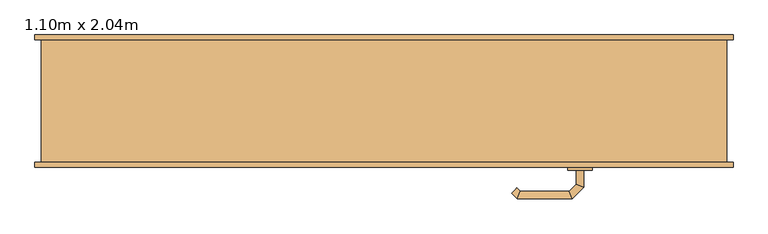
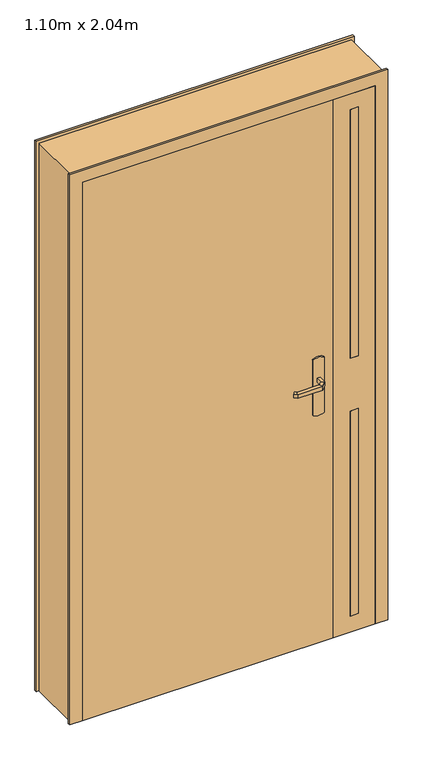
"""IFC4 building model written with IfcOpenShell, lengths in millimetres: door geometry, Tierce  160 : 1.10m x 2.04m."""

from ifc_helpers import new_model, si_unit, point, frame, frame_2d, origin, origin_with_axes, place, context, project, spatial, polyline, circle_curve, ellipse_curve, trimmed, segment, composite_curve, outline, extrude, faceted_brep, source, transform, mapped, element, save
from ifc_brep_helpers import plane_surface, cylinder_surface, advanced_brep


def door_1_10m_x_2_04m_af61bfde(model_context):
    return source(origin(), model_context, "Body", "SolidModel", [
        advanced_brep(
        [(314.0, -63.0, 993.0), (326.0, -63.0, 993.0), (326.0, -63.0, 1007.0), (314.0, -63.0, 1007.0), (314.0, -40.5147955, 1007.0), (314.0, -40.5147955, 993.0), (326.0, -35.5442327, 1007.0), (326.0, -35.5442327, 993.0), (302.5147186, -29.0295141, 1007.0), (302.5147186, -29.0295141, 993.0), (307.4852814, -17.0295141, 1007.0), (307.4852814, -17.0295141, 993.0), (222.4394977, -29.0295141, 1007.0), (222.4394977, -29.0295141, 993.0), (217.468935, -17.0295141, 1007.0), (217.468935, -17.0295141, 993.0), (217.1257892, -34.3432226, 993.0), (217.1257892, -34.3432226, 1007.0), (208.6405078, -25.8579412, 1007.0), (208.6405078, -25.8579412, 993.0)],
        [
            (0, 1, circle_curve(frame((320.0, -63.0, 1013.0457722), z_axis=(0.0, -1.0, 0.0), x_axis=(1.0, 0.0, 0.0)), 20.9244589)),
            (1, 2),
            (2, 3, circle_curve(frame((320.0, -63.0, 986.9542278), z_axis=(0.0, -1.0, 0.0), x_axis=(1.0, 0.0, 0.0)), 20.9244589)),
            (3, 0),
            (3, 4),
            (4, 5),
            (5, 0),
            (2, 6),
            (6, 4, ellipse_curve(frame((320.0, -38.0295141, 986.9542278), z_axis=(0.38268343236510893, -0.9238795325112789, 0.0), x_axis=(-0.9238795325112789, -0.3826834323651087, 0.0)), 22.6484711, 20.9244589)),
            (1, 7),
            (7, 6),
            (5, 7, ellipse_curve(frame((320.0, -38.0295141, 1013.0457722), z_axis=(0.38268343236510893, -0.9238795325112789, 0.0), x_axis=(-0.9238795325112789, -0.3826834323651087, 0.0)), 22.6484711, 20.9244589)),
            (4, 8),
            (8, 9),
            (9, 5),
            (6, 10),
            (10, 8, ellipse_curve(frame((305.0, -23.0295141, 986.9542278), z_axis=(0.9238795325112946, -0.38268343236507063, 0.0), x_axis=(-0.3826834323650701, -0.9238795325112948, 0.0)), 22.6484711, 20.9244589)),
            (7, 11),
            (11, 10),
            (9, 11, ellipse_curve(frame((305.0, -23.0295141, 1013.0457722), z_axis=(0.9238795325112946, -0.38268343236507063, 0.0), x_axis=(-0.3826834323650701, -0.9238795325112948, 0.0)), 22.6484711, 20.9244589)),
            (8, 12),
            (12, 13),
            (13, 9),
            (10, 14),
            (14, 12, ellipse_curve(frame((219.9542163, -23.0295141, 986.9542278), z_axis=(0.9238795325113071, 0.38268343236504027, 0.0), x_axis=(0.38268343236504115, -0.9238795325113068, 0.0)), 22.6484711, 20.9244589)),
            (11, 15),
            (15, 14),
            (13, 15, ellipse_curve(frame((219.9542163, -23.0295141, 1013.0457722), z_axis=(0.9238795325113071, 0.38268343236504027, 0.0), x_axis=(0.38268343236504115, -0.9238795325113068, 0.0)), 22.6484711, 20.9244589)),
            (16, 17),
            (17, 18, circle_curve(frame((212.8831485, -30.1005819, 986.9542278), z_axis=(-0.7071067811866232, -0.7071067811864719, 0.0), x_axis=(-0.7071067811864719, 0.7071067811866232, 0.0)), 20.9244589)),
            (18, 19),
            (19, 16, circle_curve(frame((212.8831485, -30.1005819, 1013.0457722), z_axis=(-0.7071067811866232, -0.7071067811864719, 0.0), x_axis=(-0.7071067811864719, 0.7071067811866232, 0.0)), 20.9244589)),
            (12, 17),
            (16, 13),
            (14, 18),
            (15, 19),
        ],
        [
            plane_surface(frame((329.2195445, -63.0, 1000.0), z_axis=(0.0, -1.0, 0.0), x_axis=(0.0, 0.0, 1.0))),
            plane_surface(frame((314.0, -63.0, 993.0), z_axis=(-1.0, 0.0, 0.0), x_axis=(0.0, 1.0, 0.0))),
            cylinder_surface(frame((320.0, -63.0, 986.9542278), z_axis=(0.0, -1.0, 0.0), x_axis=(1.0, 0.0, 0.0)), 20.9244589),
            plane_surface(frame((326.0, -63.0, 1007.0), z_axis=(1.0, 0.0, 0.0), x_axis=(0.0, 1.0, 0.0))),
            cylinder_surface(frame((320.0, -63.0, 1013.0457722), z_axis=(0.0, -1.0, 0.0), x_axis=(1.0, 0.0, 0.0)), 20.9244589),
            plane_surface(frame((314.0, -40.5147955, 993.0), z_axis=(-0.707106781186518, -0.707106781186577, 0.0), x_axis=(-0.707106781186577, 0.707106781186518, 0.0))),
            cylinder_surface(frame((320.0, -38.0295141, 986.9542278), z_axis=(0.7071067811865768, -0.7071067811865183, 0.0), x_axis=(0.7071067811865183, 0.7071067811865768, 0.0)), 20.9244589),
            plane_surface(frame((326.0, -35.5442327, 1007.0), z_axis=(0.7071067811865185, 0.7071067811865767, 0.0), x_axis=(-0.7071067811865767, 0.7071067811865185, 0.0))),
            cylinder_surface(frame((320.0, -38.0295141, 1013.0457722), z_axis=(0.7071067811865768, -0.7071067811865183, 0.0), x_axis=(0.7071067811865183, 0.7071067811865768, 0.0)), 20.9244589),
            plane_surface(frame((302.5147186, -29.0295141, 993.0), z_axis=(0.0, -1.0, 0.0), x_axis=(-1.0, 0.0, 0.0))),
            cylinder_surface(frame((305.0, -23.0295141, 986.9542278), z_axis=(1.0, 0.0, 0.0), x_axis=(0.0, 1.0, 0.0)), 20.9244589),
            plane_surface(frame((307.4852814, -17.0295141, 1007.0), z_axis=(0.0, 1.0, 0.0), x_axis=(-1.0, 0.0, 0.0))),
            cylinder_surface(frame((305.0, -23.0295141, 1013.0457722), z_axis=(1.0, 0.0, 0.0), x_axis=(0.0, 1.0, 0.0)), 20.9244589),
            plane_surface(frame((212.8831485, -30.1005819, 990.7804555), z_axis=(-0.7071067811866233, -0.7071067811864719, 0.0), x_axis=(-0.7071067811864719, 0.7071067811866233, 0.0))),
            plane_surface(frame((222.4394977, -29.0295141, 993.0), z_axis=(0.707106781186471, -0.7071067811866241, 0.0), x_axis=(-0.7071067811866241, -0.707106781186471, 0.0))),
            cylinder_surface(frame((219.9542163, -23.0295141, 986.9542278), z_axis=(0.7071067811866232, 0.7071067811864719, 0.0), x_axis=(-0.7071067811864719, 0.7071067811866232, 0.0)), 20.9244589),
            plane_surface(frame((217.468935, -17.0295141, 1007.0), z_axis=(-0.7071067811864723, 0.7071067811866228, 0.0), x_axis=(-0.7071067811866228, -0.7071067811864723, 0.0))),
            cylinder_surface(frame((219.9542163, -23.0295141, 1013.0457722), z_axis=(0.7071067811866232, 0.7071067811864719, 0.0), x_axis=(-0.7071067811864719, 0.7071067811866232, 0.0)), 20.9244589),
        ],
        [
            (0, [[1, 2, 3, 4]]),
            (1, [[5, 6, 7, -4]]),
            (2, [[8, 9, -5, -3]]),
            (3, [[10, 11, -8, -2]]),
            (4, [[-7, 12, -10, -1]]),
            (5, [[13, 14, 15, -6]]),
            (6, [[16, 17, -13, -9]]),
            (7, [[18, 19, -16, -11]]),
            (8, [[-15, 20, -18, -12]]),
            (9, [[21, 22, 23, -14]]),
            (10, [[24, 25, -21, -17]]),
            (11, [[26, 27, -24, -19]]),
            (12, [[-23, 28, -26, -20]]),
            (13, [[29, 30, 31, 32]]),
            (14, [[33, -29, 34, -22]]),
            (15, [[35, -30, -33, -25]]),
            (16, [[36, -31, -35, -27]]),
            (17, [[-34, -32, -36, -28]]),
        ],
    ),
        advanced_brep(
        [(326.0, -113.0, 1007.0), (326.0, -113.0, 993.0), (314.0, -113.0, 993.0), (314.0, -113.0, 1007.0), (314.0, -135.680388, 1007.0), (326.0, -140.6509507, 1007.0), (314.0, -135.680388, 993.0), (326.0, -140.6509507, 993.0), (302.6522273, -147.0281607, 1007.0), (307.62279, -159.0281607, 1007.0), (302.6522273, -147.0281607, 993.0), (307.62279, -159.0281607, 993.0), (222.4666408, -147.0281607, 1007.0), (217.496078, -159.0281607, 1007.0), (222.4666408, -147.0281607, 993.0), (217.496078, -159.0281607, 993.0), (208.6676509, -150.1997336, 1007.0), (217.1529323, -141.7144522, 1007.0), (217.1529323, -141.7144522, 993.0), (208.6676509, -150.1997336, 993.0)],
        [
            (0, 1),
            (1, 2, circle_curve(frame((320.0, -113.0, 1013.0457722), z_axis=(0.0, 1.0, 0.0), x_axis=(-1.0, 0.0, 0.0)), 20.9244589)),
            (2, 3),
            (3, 0, circle_curve(frame((320.0, -113.0, 986.9542278), z_axis=(0.0, 1.0, 0.0), x_axis=(-1.0, 0.0, 0.0)), 20.9244589)),
            (3, 4),
            (4, 5, ellipse_curve(frame((320.0, -138.1656693, 986.9542278), z_axis=(0.3826834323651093, 0.9238795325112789, 0.0), x_axis=(-0.9238795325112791, 0.38268343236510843, 0.0)), 22.6484711, 20.9244589)),
            (5, 0),
            (2, 6),
            (6, 4),
            (1, 7),
            (7, 6, ellipse_curve(frame((320.0, -138.1656693, 1013.0457722), z_axis=(0.3826834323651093, 0.9238795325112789, 0.0), x_axis=(-0.9238795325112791, 0.38268343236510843, 0.0)), 22.6484711, 20.9244589)),
            (5, 7),
            (4, 8),
            (8, 9, ellipse_curve(frame((305.1375086, -153.0281607, 986.9542278), z_axis=(0.9238795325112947, 0.38268343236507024, 0.0), x_axis=(-0.3826834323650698, 0.9238795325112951, 0.0)), 22.6484711, 20.9244589)),
            (9, 5),
            (6, 10),
            (10, 8),
            (7, 11),
            (11, 10, ellipse_curve(frame((305.1375086, -153.0281607, 1013.0457722), z_axis=(0.9238795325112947, 0.38268343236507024, 0.0), x_axis=(-0.3826834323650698, 0.9238795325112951, 0.0)), 22.6484711, 20.9244589)),
            (9, 11),
            (8, 12),
            (12, 13, ellipse_curve(frame((219.9813594, -153.0281607, 986.9542278), z_axis=(0.9238795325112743, -0.3826834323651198, 0.0), x_axis=(0.38268343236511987, 0.9238795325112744, 0.0)), 22.6484711, 20.9244589)),
            (13, 9),
            (10, 14),
            (14, 12),
            (11, 15),
            (15, 14, ellipse_curve(frame((219.9813594, -153.0281607, 1013.0457722), z_axis=(0.9238795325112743, -0.3826834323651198, 0.0), x_axis=(0.38268343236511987, 0.9238795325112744, 0.0)), 22.6484711, 20.9244589)),
            (13, 15),
            (16, 17, circle_curve(frame((212.9102916, -145.9570929, 986.9542278), z_axis=(-0.7071067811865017, 0.7071067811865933, 0.0), x_axis=(0.7071067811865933, 0.7071067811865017, 0.0)), 20.9244589)),
            (17, 18),
            (18, 19, circle_curve(frame((212.9102916, -145.9570929, 1013.0457722), z_axis=(-0.7071067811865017, 0.7071067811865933, 0.0), x_axis=(0.7071067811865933, 0.7071067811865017, 0.0)), 20.9244589)),
            (19, 16),
            (12, 17),
            (16, 13),
            (14, 18),
            (15, 19),
        ],
        [
            plane_surface(frame((329.2195445, -113.0, 1000.0), z_axis=(0.0, 1.0, 0.0), x_axis=(0.0, 0.0, -1.0))),
            cylinder_surface(frame((320.0, -113.0, 986.9542278), z_axis=(0.0, 1.0, 0.0), x_axis=(-1.0, 0.0, 0.0)), 20.9244589),
            plane_surface(frame((314.0, -113.0, 1007.0), z_axis=(-1.0, 0.0, 0.0), x_axis=(0.0, -1.0, 0.0))),
            cylinder_surface(frame((320.0, -113.0, 1013.0457722), z_axis=(0.0, 1.0, 0.0), x_axis=(-1.0, 0.0, 0.0)), 20.9244589),
            plane_surface(frame((326.0, -113.0, 993.0), z_axis=(1.0, 0.0, 0.0), x_axis=(0.0, -1.0, 0.0))),
            cylinder_surface(frame((320.0, -138.1656693, 986.9542278), z_axis=(0.7071067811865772, 0.7071067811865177, 0.0), x_axis=(-0.7071067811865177, 0.7071067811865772, 0.0)), 20.9244589),
            plane_surface(frame((314.0, -135.680388, 1007.0), z_axis=(-0.7071067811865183, 0.7071067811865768, 0.0), x_axis=(-0.7071067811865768, -0.7071067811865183, 0.0))),
            cylinder_surface(frame((320.0, -138.1656693, 1013.0457722), z_axis=(0.7071067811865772, 0.7071067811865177, 0.0), x_axis=(-0.7071067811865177, 0.7071067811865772, 0.0)), 20.9244589),
            plane_surface(frame((326.0, -140.6509507, 993.0), z_axis=(0.707106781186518, -0.707106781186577, 0.0), x_axis=(-0.707106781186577, -0.707106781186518, 0.0))),
            cylinder_surface(frame((305.1375086, -153.0281607, 986.9542278), z_axis=(1.0, 0.0, 0.0), x_axis=(0.0, 1.0, 0.0)), 20.9244589),
            plane_surface(frame((302.6522273, -147.0281607, 1007.0), z_axis=(0.0, 1.0, 0.0), x_axis=(-1.0, 0.0, 0.0))),
            cylinder_surface(frame((305.1375086, -153.0281607, 1013.0457722), z_axis=(1.0, 0.0, 0.0), x_axis=(0.0, 1.0, 0.0)), 20.9244589),
            plane_surface(frame((307.62279, -159.0281607, 993.0), z_axis=(0.0, -1.0, 0.0), x_axis=(-1.0, 0.0, 0.0))),
            plane_surface(frame((212.9102916, -145.9570929, 1009.2195445), z_axis=(-0.7071067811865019, 0.7071067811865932, 0.0), x_axis=(-0.7071067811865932, -0.7071067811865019, 0.0))),
            cylinder_surface(frame((219.9813594, -153.0281607, 986.9542278), z_axis=(0.7071067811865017, -0.7071067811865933, 0.0), x_axis=(0.7071067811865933, 0.7071067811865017, 0.0)), 20.9244589),
            plane_surface(frame((222.4666408, -147.0281607, 1007.0), z_axis=(0.7071067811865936, 0.7071067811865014, 0.0), x_axis=(-0.7071067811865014, 0.7071067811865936, 0.0))),
            cylinder_surface(frame((219.9813594, -153.0281607, 1013.0457722), z_axis=(0.7071067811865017, -0.7071067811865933, 0.0), x_axis=(0.7071067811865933, 0.7071067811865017, 0.0)), 20.9244589),
            plane_surface(frame((217.496078, -159.0281607, 993.0), z_axis=(-0.707106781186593, -0.7071067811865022, 0.0), x_axis=(-0.7071067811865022, 0.707106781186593, 0.0))),
        ],
        [
            (0, [[1, 2, 3, 4]]),
            (1, [[5, 6, 7, -4]]),
            (2, [[8, 9, -5, -3]]),
            (3, [[10, 11, -8, -2]]),
            (4, [[-7, 12, -10, -1]]),
            (5, [[13, 14, 15, -6]]),
            (6, [[16, 17, -13, -9]]),
            (7, [[18, 19, -16, -11]]),
            (8, [[-15, 20, -18, -12]]),
            (9, [[21, 22, 23, -14]]),
            (10, [[24, 25, -21, -17]]),
            (11, [[26, 27, -24, -19]]),
            (12, [[-23, 28, -26, -20]]),
            (13, [[29, 30, 31, 32]]),
            (14, [[33, -29, 34, -22]]),
            (15, [[35, -30, -33, -25]]),
            (16, [[36, -31, -35, -27]]),
            (17, [[-34, -32, -36, -28]]),
        ],
    ),
        extrude(outline(composite_curve([segment(polyline([(1080.0, 300.0), (870.0, 300.0)]), True, "CONTINUOUS"), segment(trimmed(circle_curve(frame_2d((904.6410162, 320.0)), 40.0), [point((870.0, 300.0))], [point((870.0, 340.0))], False, "CARTESIAN"), True, "CONTINUOUS"), segment(polyline([(870.0, 340.0), (1080.0, 340.0)]), True, "CONTINUOUS"), segment(trimmed(circle_curve(frame_2d((1045.3589838, 320.0)), 40.0), [point((1080.0, 340.0))], [point((1080.0, 300.0))], False, "CARTESIAN"), True, "CONTINUOUS")], self_intersect=False)), frame((0.0, -68.0, 0.0), z_axis=(0.0, 1.0, 0.0), x_axis=(0.0, 0.0, 1.0)), (0.0, 0.0, 1.0), 5.0),
        extrude(outline(composite_curve([segment(polyline([(870.0, 340.0), (1080.0, 340.0)]), True, "CONTINUOUS"), segment(trimmed(circle_curve(frame_2d((1045.3589838, 320.0)), 40.0), [point((1080.0, 340.0))], [point((1080.0, 300.0))], False, "CARTESIAN"), True, "CONTINUOUS"), segment(polyline([(1080.0, 300.0), (870.0, 300.0)]), True, "CONTINUOUS"), segment(trimmed(circle_curve(frame_2d((904.6410162, 320.0)), 40.0), [point((870.0, 300.0))], [point((870.0, 340.0))], False, "CARTESIAN"), True, "CONTINUOUS")], self_intersect=False)), frame((0.0, -113.0, 0.0), z_axis=(0.0, 1.0, 0.0), x_axis=(0.0, 0.0, 1.0)), (0.0, 0.0, 1.0), 5.0),
        faceted_brep([(-560.0, -100.0, 0.0), (-560.0, 100.0, 0.0), (-570.0, 100.0, 0.0), (-570.0, 108.0, 0.0), (-510.0, 108.0, 0.0), (-510.0, -68.0, 0.0), (-525.0, -68.0, 0.0), (-525.0, -108.0, 0.0), (-570.0, -108.0, 0.0), (-570.0, -100.0, 0.0), (-560.0, -100.0, 2075.0), (-560.0, 100.0, 2075.0), (560.0, 100.0, 2075.0), (560.0, 100.0, 0.0), (570.0, 100.0, 0.0), (570.0, 100.0, 2085.0), (-570.0, 100.0, 2085.0), (-570.0, 108.0, 2085.0), (570.0, 108.0, 2085.0), (570.0, 108.0, 0.0), (510.0, 108.0, 0.0), (510.0, 108.0, 2025.0), (-510.0, 108.0, 2025.0), (-510.0, -68.0, 2025.0), (510.0, -68.0, 2025.0), (510.0, -68.0, 0.0), (525.0, -68.0, 0.0), (525.0, -68.0, 2040.0), (-525.0, -68.0, 2040.0), (-525.0, -108.0, 2040.0), (525.0, -108.0, 2040.0), (525.0, -108.0, 0.0), (570.0, -108.0, 0.0), (570.0, -108.0, 2085.0), (-570.0, -108.0, 2085.0), (-570.0, -100.0, 2085.0), (570.0, -100.0, 2085.0), (570.0, -100.0, 0.0), (560.0, -100.0, 0.0), (560.0, -100.0, 2075.0)], [[[0, 1, 2, 3, 4, 5, 6, 7, 8, 9]], [[1, 0, 10, 11]], [[2, 1, 11, 12, 13, 14, 15, 16]], [[3, 2, 16, 17]], [[4, 3, 17, 18, 19, 20, 21, 22]], [[5, 4, 22, 23]], [[6, 5, 23, 24, 25, 26, 27, 28]], [[7, 6, 28, 29]], [[8, 7, 29, 30, 31, 32, 33, 34]], [[9, 8, 34, 35]], [[0, 9, 35, 36, 37, 38, 39, 10]], [[12, 39, 38, 13]], [[38, 37, 32, 31, 26, 25, 20, 19, 14, 13]], [[18, 15, 14, 19]], [[24, 21, 20, 25]], [[30, 27, 26, 31]], [[36, 33, 32, 37]], [[11, 10, 39, 12]], [[17, 16, 15, 18]], [[23, 22, 21, 24]], [[29, 28, 27, 30]], [[35, 34, 33, 36]]]),
        extrude(outline(polyline([(465.0, -108.0), (435.0, -108.0), (435.0, -68.0), (465.0, -68.0), (465.0, -108.0)])), frame((0.0, 0.0, 60.0), z_axis=(0.0, 0.0, 1.0), x_axis=(1.0, 0.0, 0.0)), (0.0, 0.0, 1.0), 777.5),
        extrude(outline(polyline([(465.0, -108.0), (435.0, -108.0), (435.0, -68.0), (465.0, -68.0), (465.0, -108.0)])), frame((0.0, 0.0, 1037.5), z_axis=(0.0, 0.0, 1.0), x_axis=(1.0, 0.0, 0.0)), (0.0, 0.0, 1.0), 942.5),
        extrude(outline(polyline([(2040.0, 525.0), (2040.0, 375.0), (0.0, 375.0), (0.0, 525.0), (2040.0, 525.0)]), holes=[polyline([(837.5, 435.0), (837.5, 465.0), (60.0, 465.0), (60.0, 435.0), (837.5, 435.0)]), polyline([(1037.5, 465.0), (1037.5, 435.0), (1980.0, 435.0), (1980.0, 465.0), (1037.5, 465.0)])]), frame((0.0, -108.0, 0.0), z_axis=(0.0, 1.0, 0.0), x_axis=(0.0, 0.0, 1.0)), (0.0, 0.0, 1.0), 40.0),
        extrude(outline(polyline([(375.0, -108.0), (-525.0, -108.0), (-525.0, -68.0), (375.0, -68.0), (375.0, -108.0)])), origin_with_axes(), (0.0, 0.0, 1.0), 2040.0),
    ])


if __name__ == "__main__":
    model = new_model("IFC4")
    model_context = context("Model", 3, world=origin())
    ifc_project = project(units=[si_unit("LENGTHUNIT", "METRE", prefix="MILLI")], contexts=[model_context])
    site = spatial("IfcSite", under=ifc_project)
    building = spatial("IfcBuilding", under=site)
    placement = place(None, origin())
    door_1_10m_x_2_04m_shape = door_1_10m_x_2_04m_af61bfde(model_context)
    element("IfcDoor", 1, ObjectType="Tierce  160 : 1.10m x 2.04m", at=placement, inside=building, context=model_context, shape_type="MappedRepresentation", body=[
        mapped(door_1_10m_x_2_04m_shape, transform((0.0, 0.0, 0.0), x_axis=(1.0, 0.0, 0.0), y_axis=(0.0, 1.0, 0.0), z_axis=(0.0, 0.0, 1.0))),
    ])
    save(model, "model.ifc")
